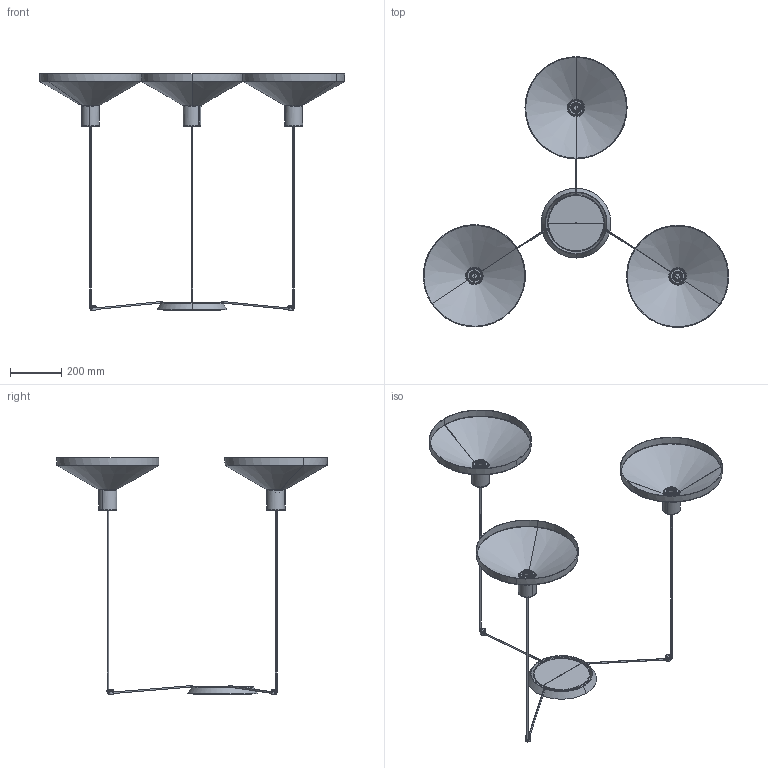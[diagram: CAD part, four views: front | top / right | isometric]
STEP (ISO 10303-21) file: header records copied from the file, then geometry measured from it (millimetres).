
FILE_DESCRIPTION(/* description */ (''),/* implementation_level */ '2;1');
FILE_NAME(/* name */ 'C:\Users\Franco Sartori E\Documents\FARO\DUPLICADO\Modelos\01_Digitalizados\2021\KOMBO\03_Publicación\68597-3L.stp',/* time_stamp */ '2021-02-25T09:08:50+01:00',/* author */ ('Franco Sartori E'),/* organization */ (''),/* preprocessor_version */ 'ST-DEVELOPER v18.1',/* originating_system */ 'AutoCAD Mechanical',/* authorisation */ '');
FILE_SCHEMA (('AUTOMOTIVE_DESIGN { 1 0 10303 214 3 1 1 }'));
Length unit declared in the file: millimetre
Products named in the file (5): Product; CANOPY_3 - 68603-407759-_3D_; KOMBO400FMA - LH-410479-_3D_; KOMBO400FMA - LH-410482-_3D_; KOMBO400FMA - LH-410485-_3D_
Assembly tree (4 placements, depth 2):
  Product
    CANOPY_3 - 68603-407759-_3D_
    KOMBO400FMA - LH-410479-_3D_
    KOMBO400FMA - LH-410482-_3D_
    KOMBO400FMA - LH-410485-_3D_
Bounding box: 1195.36 x 1059.62 x 925.51 mm (x, y, z)
Volume: 1353741 mm3; surface area: 2737288 mm2
Topology: 41 solids, 41 shells, 871 faces, 2057 edges, 1226 vertices
Faces by surface type: cylinder 309, plane 304, torus 138, cone 120
Entity records: 34566 total; most frequent: CARTESIAN_POINT 15261, ORIENTED_EDGE 4102, DIRECTION 3775, EDGE_CURVE 2051, AXIS2_PLACEMENT_3D 1509, VERTEX_POINT 1226, EDGE_LOOP 941, FACE_OUTER_BOUND 871
